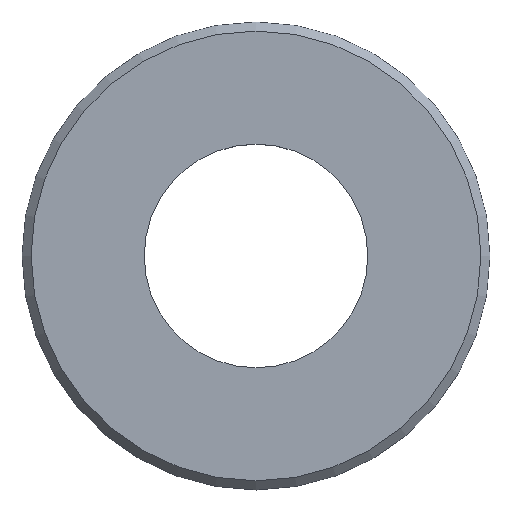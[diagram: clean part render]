
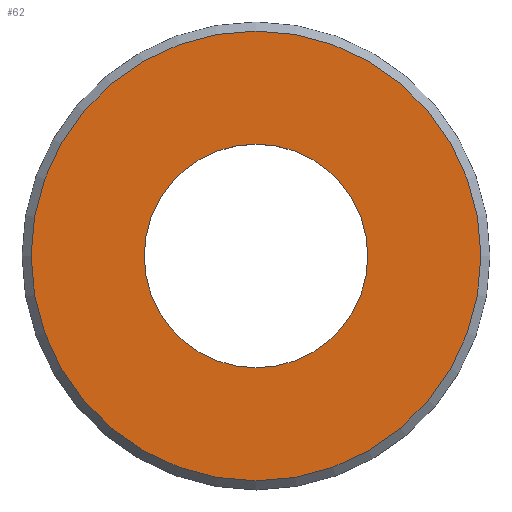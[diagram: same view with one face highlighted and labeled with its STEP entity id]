
A CAD part, top view. The second image highlights one B-rep face of the part: STEP entity #62.
In plain terms, the highlighted planar face has unit normal (0, 0, 1).
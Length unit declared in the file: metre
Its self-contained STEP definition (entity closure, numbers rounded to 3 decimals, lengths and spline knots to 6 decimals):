
#15=ORIENTED_EDGE('',*,*,#25,.F.);
#16=ORIENTED_EDGE('',*,*,#26,.T.);
#25=EDGE_CURVE('',#30,#30,#35,.T.);
#26=EDGE_CURVE('',#31,#31,#36,.T.);
#30=VERTEX_POINT('',#115);
#31=VERTEX_POINT('',#117);
#35=CIRCLE('',#81,0.004325);
#36=CIRCLE('',#82,0.00215);
#40=EDGE_LOOP('',(#15));
#41=EDGE_LOOP('',(#16));
#50=FACE_BOUND('',#40,.T.);
#51=FACE_BOUND('',#41,.T.);
#60=PLANE('',#80);
#62=ADVANCED_FACE('',(#50,#51),#60,.F.);
#80=AXIS2_PLACEMENT_3D('',#113,#92,#93);
#81=AXIS2_PLACEMENT_3D('',#114,#94,#95);
#82=AXIS2_PLACEMENT_3D('',#116,#96,#97);
#92=DIRECTION('',(0.,0.,-1.));
#93=DIRECTION('',(-1.,0.,0.));
#94=DIRECTION('',(0.,0.,-1.));
#95=DIRECTION('',(-1.,0.,0.));
#96=DIRECTION('',(0.,0.,-1.));
#97=DIRECTION('',(-1.,0.,0.));
#113=CARTESIAN_POINT('',(0.003238,0.,0.00035));
#114=CARTESIAN_POINT('',(0.,0.,0.00035));
#115=CARTESIAN_POINT('',(-0.004325,0.,0.00035));
#116=CARTESIAN_POINT('',(0.,0.,0.00035));
#117=CARTESIAN_POINT('',(-0.00215,0.,0.00035));
